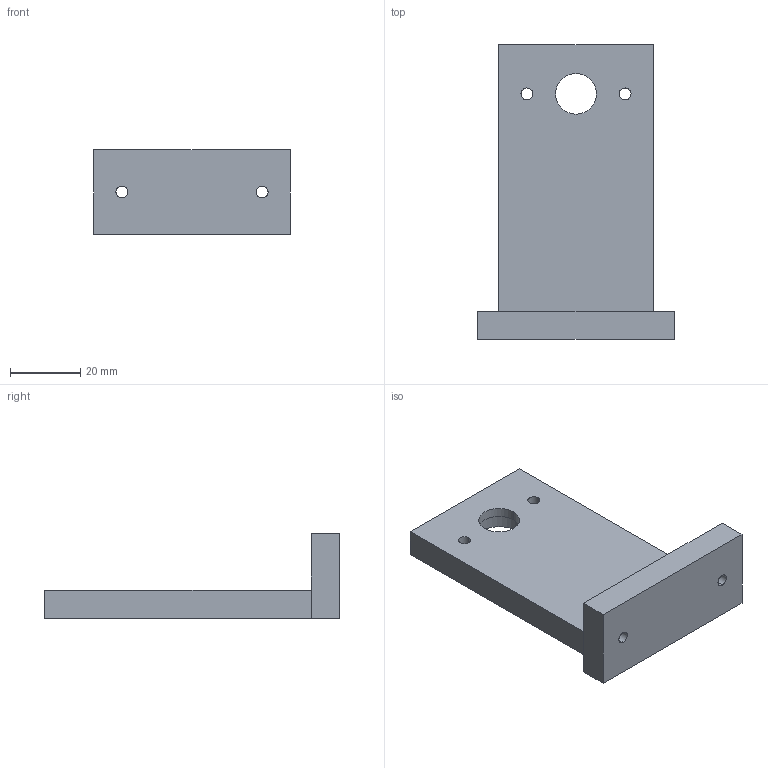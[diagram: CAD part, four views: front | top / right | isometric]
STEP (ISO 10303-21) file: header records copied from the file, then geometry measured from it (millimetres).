
FILE_DESCRIPTION (( 'STEP AP203' ), '1' );
FILE_NAME ('V2_02_bearing_tower.STEP', '2026-09-18T10:17:02', ( '15300530775@163.com' ), ( '' ), 'SwSTEP 2.0', 'SolidWorks 2026', '' );
FILE_SCHEMA (( 'CONFIG_CONTROL_DESIGN' ));
Length unit declared in the file: millimetre
Products named in the file (1): V2_02_bearing_tower
Bounding box: 56 x 84 x 24 mm (x, y, z)
Volume: 35845.7 mm3; surface area: 12296.5 mm2
Topology: 1 solids, 1 shells, 23 faces, 60 edges, 40 vertices
Faces by surface type: cylinder 12, plane 11
Entity records: 927 total; most frequent: CARTESIAN_POINT 260, ORIENTED_EDGE 120, DIRECTION 116, EDGE_CURVE 60, AXIS2_PLACEMENT_3D 40, VERTEX_POINT 40, VECTOR 36, LINE 36
